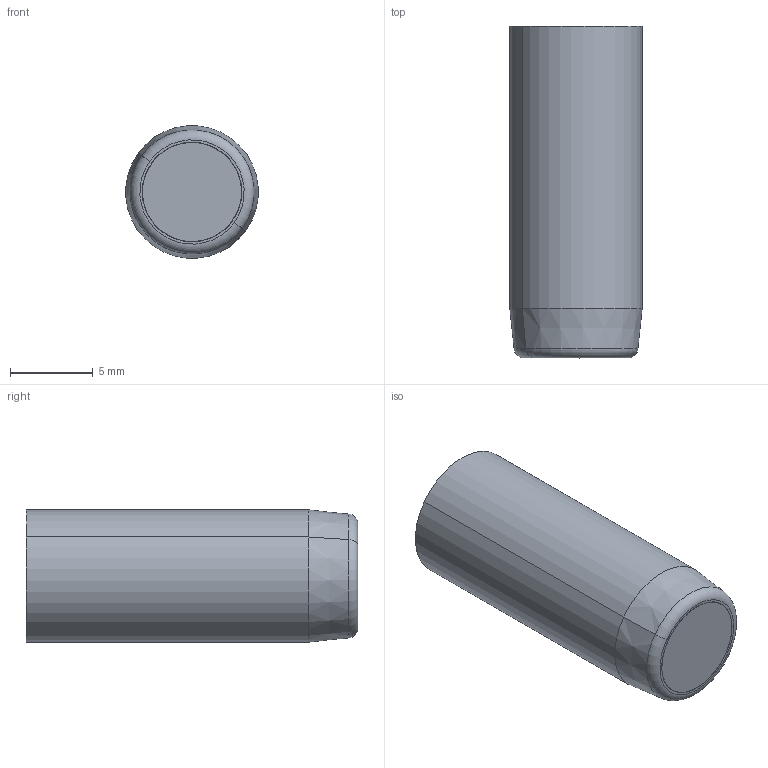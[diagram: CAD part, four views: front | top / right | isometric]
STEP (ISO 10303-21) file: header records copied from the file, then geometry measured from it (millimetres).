
FILE_DESCRIPTION (( 'STEP AP214' ), '1' );
FILE_NAME ('FA 084705-20.STEP', '2013-10-01T09:12:48', ( '' ), ( '' ), 'SwSTEP 2.0', 'SolidWorks 2011', '' );
FILE_SCHEMA (( 'AUTOMOTIVE_DESIGN' ));
Length unit declared in the file: millimetre
Products named in the file (6): FA 084700-3; FA 084705-20; FA 084700-2 comprimido; FA 084700-1; IA 4717SF; FA 084705-20-1
Assembly tree (5 placements, depth 2):
  FA 084705-20
    FA 084700-2 comprimido
    FA 084700-3
    IA 4717SF
    FA 084700-1
    FA 084705-20-1
Bounding box: 7.98 x 20 x 7.98 mm (x, y, z)
Volume: 847.1 mm3; surface area: 1510.6 mm2
Topology: 5 solids, 5 shells, 245 faces, 614 edges, 396 vertices
Faces by surface type: plane 114, cylinder 91, cone 24, torus 12, bspline 2, sphere 2
Entity records: 9008 total; most frequent: CARTESIAN_POINT 2719, DIRECTION 1312, ORIENTED_EDGE 1224, EDGE_CURVE 612, AXIS2_PLACEMENT_3D 485, VERTEX_POINT 396, VECTOR 342, LINE 342
